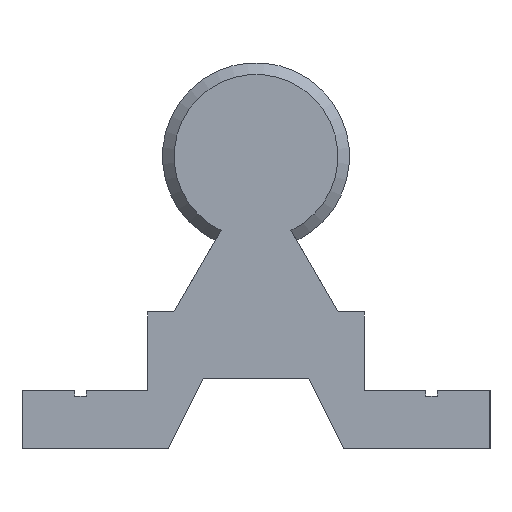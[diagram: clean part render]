
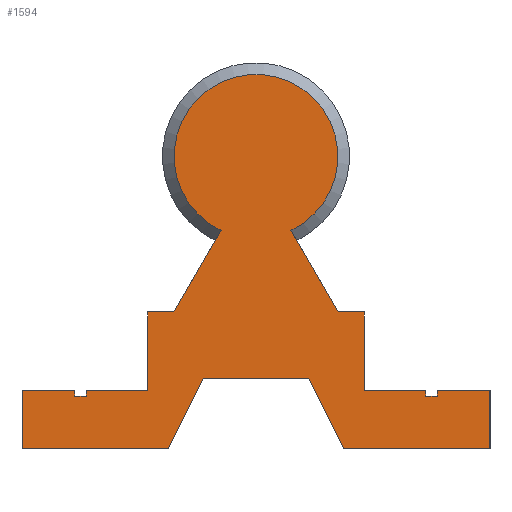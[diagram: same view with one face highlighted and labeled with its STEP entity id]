
A CAD part, left-side view. The second image highlights one B-rep face of the part: STEP entity #1594.
In plain terms, the highlighted planar face has unit normal (-1, 0, 0).
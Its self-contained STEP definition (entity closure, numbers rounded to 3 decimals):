
#36=LINE('',#2365,#164);
#37=LINE('',#2367,#165);
#38=LINE('',#2369,#166);
#39=LINE('',#2371,#167);
#40=LINE('',#2373,#168);
#41=LINE('',#2375,#169);
#42=LINE('',#2377,#170);
#43=LINE('',#2379,#171);
#44=LINE('',#2381,#172);
#45=LINE('',#2383,#173);
#46=LINE('',#2385,#174);
#47=LINE('',#2387,#175);
#48=LINE('',#2389,#176);
#49=LINE('',#2391,#177);
#50=LINE('',#2393,#178);
#51=LINE('',#2395,#179);
#52=LINE('',#2397,#180);
#53=LINE('',#2399,#181);
#54=LINE('',#2401,#182);
#55=LINE('',#2403,#183);
#56=LINE('',#2405,#184);
#57=LINE('',#2407,#185);
#58=LINE('',#2408,#186);
#164=VECTOR('',#1881,10.);
#165=VECTOR('',#1882,10.);
#166=VECTOR('',#1883,10.);
#167=VECTOR('',#1884,10.);
#168=VECTOR('',#1885,10.);
#169=VECTOR('',#1886,10.);
#170=VECTOR('',#1887,10.);
#171=VECTOR('',#1888,10.);
#172=VECTOR('',#1889,10.);
#173=VECTOR('',#1890,10.);
#174=VECTOR('',#1891,10.);
#175=VECTOR('',#1892,10.);
#176=VECTOR('',#1893,10.);
#177=VECTOR('',#1894,10.);
#178=VECTOR('',#1895,10.);
#179=VECTOR('',#1896,10.);
#180=VECTOR('',#1897,10.);
#181=VECTOR('',#1898,10.);
#182=VECTOR('',#1899,10.);
#183=VECTOR('',#1900,10.);
#184=VECTOR('',#1901,10.);
#185=VECTOR('',#1902,10.);
#186=VECTOR('',#1903,10.);
#292=PLANE('',#1700);
#348=FACE_OUTER_BOUND('',#432,.T.);
#432=EDGE_LOOP('',(#1071,#1072,#1073,#1074,#1075,#1076,#1077,#1078,#1079,
#1080,#1081,#1082,#1083,#1084,#1085,#1086,#1087,#1088,#1089,#1090,#1091,
#1092,#1093,#1094));
#525=CIRCLE('',#1698,7.);
#652=VERTEX_POINT('',#2352);
#653=VERTEX_POINT('',#2356);
#655=VERTEX_POINT('',#2364);
#656=VERTEX_POINT('',#2366);
#657=VERTEX_POINT('',#2368);
#658=VERTEX_POINT('',#2370);
#659=VERTEX_POINT('',#2372);
#660=VERTEX_POINT('',#2374);
#661=VERTEX_POINT('',#2376);
#662=VERTEX_POINT('',#2378);
#663=VERTEX_POINT('',#2380);
#664=VERTEX_POINT('',#2382);
#665=VERTEX_POINT('',#2384);
#666=VERTEX_POINT('',#2386);
#667=VERTEX_POINT('',#2388);
#668=VERTEX_POINT('',#2390);
#669=VERTEX_POINT('',#2392);
#670=VERTEX_POINT('',#2394);
#671=VERTEX_POINT('',#2396);
#672=VERTEX_POINT('',#2398);
#673=VERTEX_POINT('',#2400);
#674=VERTEX_POINT('',#2402);
#675=VERTEX_POINT('',#2404);
#676=VERTEX_POINT('',#2406);
#814=EDGE_CURVE('',#652,#653,#525,.T.);
#817=EDGE_CURVE('',#653,#655,#36,.T.);
#818=EDGE_CURVE('',#656,#652,#37,.T.);
#819=EDGE_CURVE('',#657,#656,#38,.T.);
#820=EDGE_CURVE('',#658,#657,#39,.T.);
#821=EDGE_CURVE('',#659,#658,#40,.T.);
#822=EDGE_CURVE('',#660,#659,#41,.T.);
#823=EDGE_CURVE('',#661,#660,#42,.T.);
#824=EDGE_CURVE('',#662,#661,#43,.T.);
#825=EDGE_CURVE('',#663,#662,#44,.T.);
#826=EDGE_CURVE('',#664,#663,#45,.T.);
#827=EDGE_CURVE('',#665,#664,#46,.T.);
#828=EDGE_CURVE('',#666,#665,#47,.T.);
#829=EDGE_CURVE('',#667,#666,#48,.T.);
#830=EDGE_CURVE('',#668,#667,#49,.T.);
#831=EDGE_CURVE('',#669,#668,#50,.T.);
#832=EDGE_CURVE('',#670,#669,#51,.T.);
#833=EDGE_CURVE('',#671,#670,#52,.T.);
#834=EDGE_CURVE('',#672,#671,#53,.T.);
#835=EDGE_CURVE('',#673,#672,#54,.T.);
#836=EDGE_CURVE('',#674,#673,#55,.T.);
#837=EDGE_CURVE('',#675,#674,#56,.T.);
#838=EDGE_CURVE('',#676,#675,#57,.T.);
#839=EDGE_CURVE('',#655,#676,#58,.T.);
#1071=ORIENTED_EDGE('',*,*,#817,.F.);
#1072=ORIENTED_EDGE('',*,*,#814,.F.);
#1073=ORIENTED_EDGE('',*,*,#818,.F.);
#1074=ORIENTED_EDGE('',*,*,#819,.F.);
#1075=ORIENTED_EDGE('',*,*,#820,.F.);
#1076=ORIENTED_EDGE('',*,*,#821,.F.);
#1077=ORIENTED_EDGE('',*,*,#822,.F.);
#1078=ORIENTED_EDGE('',*,*,#823,.F.);
#1079=ORIENTED_EDGE('',*,*,#824,.F.);
#1080=ORIENTED_EDGE('',*,*,#825,.F.);
#1081=ORIENTED_EDGE('',*,*,#826,.F.);
#1082=ORIENTED_EDGE('',*,*,#827,.F.);
#1083=ORIENTED_EDGE('',*,*,#828,.F.);
#1084=ORIENTED_EDGE('',*,*,#829,.F.);
#1085=ORIENTED_EDGE('',*,*,#830,.F.);
#1086=ORIENTED_EDGE('',*,*,#831,.F.);
#1087=ORIENTED_EDGE('',*,*,#832,.F.);
#1088=ORIENTED_EDGE('',*,*,#833,.F.);
#1089=ORIENTED_EDGE('',*,*,#834,.F.);
#1090=ORIENTED_EDGE('',*,*,#835,.F.);
#1091=ORIENTED_EDGE('',*,*,#836,.F.);
#1092=ORIENTED_EDGE('',*,*,#837,.F.);
#1093=ORIENTED_EDGE('',*,*,#838,.F.);
#1094=ORIENTED_EDGE('',*,*,#839,.F.);
#1594=ADVANCED_FACE('',(#348),#292,.F.);
#1698=AXIS2_PLACEMENT_3D('',#2357,#1875,#1876);
#1700=AXIS2_PLACEMENT_3D('',#2363,#1879,#1880);
#1875=DIRECTION('center_axis',(1.,0.,0.));
#1876=DIRECTION('ref_axis',(0.,1.,0.));
#1879=DIRECTION('center_axis',(1.,0.,0.));
#1880=DIRECTION('ref_axis',(0.,0.,-1.));
#1881=DIRECTION('',(0.,-0.5,-0.866));
#1882=DIRECTION('',(0.,-0.5,0.866));
#1883=DIRECTION('',(0.,-1.,0.));
#1884=DIRECTION('',(0.,0.,1.));
#1885=DIRECTION('',(0.,-1.,0.));
#1886=DIRECTION('',(0.,0.,1.));
#1887=DIRECTION('',(0.,-1.,0.));
#1888=DIRECTION('',(0.,0.,-1.));
#1889=DIRECTION('',(0.,-1.,0.));
#1890=DIRECTION('',(0.,0.,1.));
#1891=DIRECTION('',(0.,1.,0.));
#1892=DIRECTION('',(0.,0.447,-0.894));
#1893=DIRECTION('',(0.,1.,0.));
#1894=DIRECTION('',(0.,0.447,0.894));
#1895=DIRECTION('',(0.,1.,0.));
#1896=DIRECTION('',(0.,0.,-1.));
#1897=DIRECTION('',(0.,-1.,0.));
#1898=DIRECTION('',(0.,0.,1.));
#1899=DIRECTION('',(0.,-1.,0.));
#1900=DIRECTION('',(0.,0.,-1.));
#1901=DIRECTION('',(0.,-1.,0.));
#1902=DIRECTION('',(0.,0.,-1.));
#1903=DIRECTION('',(0.,-1.,0.));
#2352=CARTESIAN_POINT('',(0.,2.986,18.669));
#2356=CARTESIAN_POINT('',(0.,-2.986,18.669));
#2357=CARTESIAN_POINT('Origin',(0.,0.,25.));
#2363=CARTESIAN_POINT('Origin',(0.,0.,25.));
#2364=CARTESIAN_POINT('',(0.,-7.009,11.7));
#2365=CARTESIAN_POINT('',(0.,-1.492,21.255));
#2366=CARTESIAN_POINT('',(0.,7.009,11.7));
#2367=CARTESIAN_POINT('',(0.,3.253,18.205));
#2368=CARTESIAN_POINT('',(0.,9.25,11.7));
#2369=CARTESIAN_POINT('',(0.,9.25,11.7));
#2370=CARTESIAN_POINT('',(0.,9.25,5.));
#2371=CARTESIAN_POINT('',(0.,9.25,5.));
#2372=CARTESIAN_POINT('',(0.,14.5,5.));
#2373=CARTESIAN_POINT('',(0.,14.5,5.));
#2374=CARTESIAN_POINT('',(0.,14.5,4.5));
#2375=CARTESIAN_POINT('',(0.,14.5,4.5));
#2376=CARTESIAN_POINT('',(0.,15.5,4.5));
#2377=CARTESIAN_POINT('',(0.,15.5,4.5));
#2378=CARTESIAN_POINT('',(0.,15.5,5.));
#2379=CARTESIAN_POINT('',(0.,15.5,5.));
#2380=CARTESIAN_POINT('',(0.,20.,5.));
#2381=CARTESIAN_POINT('',(0.,20.,5.));
#2382=CARTESIAN_POINT('',(0.,20.,0.));
#2383=CARTESIAN_POINT('',(0.,20.,0.));
#2384=CARTESIAN_POINT('',(0.,7.5,0.));
#2385=CARTESIAN_POINT('',(0.,7.5,0.));
#2386=CARTESIAN_POINT('',(0.,4.5,6.));
#2387=CARTESIAN_POINT('',(0.,4.5,6.));
#2388=CARTESIAN_POINT('',(0.,-4.5,6.));
#2389=CARTESIAN_POINT('',(0.,-4.5,6.));
#2390=CARTESIAN_POINT('',(0.,-7.5,0.));
#2391=CARTESIAN_POINT('',(0.,-7.5,0.));
#2392=CARTESIAN_POINT('',(0.,-20.,0.));
#2393=CARTESIAN_POINT('',(0.,-20.,0.));
#2394=CARTESIAN_POINT('',(0.,-20.,5.));
#2395=CARTESIAN_POINT('',(0.,-20.,5.));
#2396=CARTESIAN_POINT('',(0.,-15.5,5.));
#2397=CARTESIAN_POINT('',(0.,-15.5,5.));
#2398=CARTESIAN_POINT('',(0.,-15.5,4.5));
#2399=CARTESIAN_POINT('',(0.,-15.5,4.5));
#2400=CARTESIAN_POINT('',(0.,-14.5,4.5));
#2401=CARTESIAN_POINT('',(0.,-14.5,4.5));
#2402=CARTESIAN_POINT('',(0.,-14.5,5.));
#2403=CARTESIAN_POINT('',(0.,-14.5,5.));
#2404=CARTESIAN_POINT('',(0.,-9.25,5.));
#2405=CARTESIAN_POINT('',(0.,-9.25,5.));
#2406=CARTESIAN_POINT('',(0.,-9.25,11.7));
#2407=CARTESIAN_POINT('',(0.,-9.25,11.7));
#2408=CARTESIAN_POINT('',(0.,-7.009,11.7));
